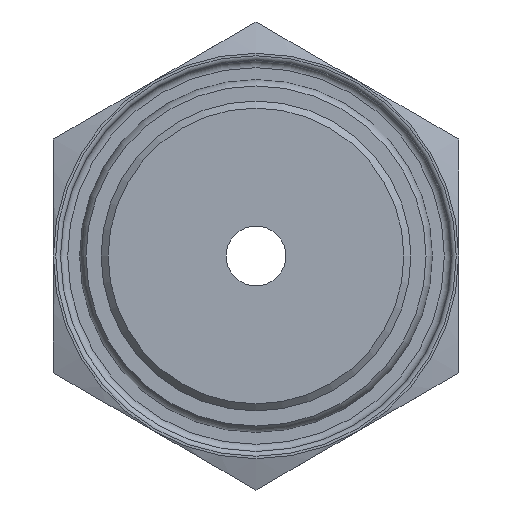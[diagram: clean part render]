
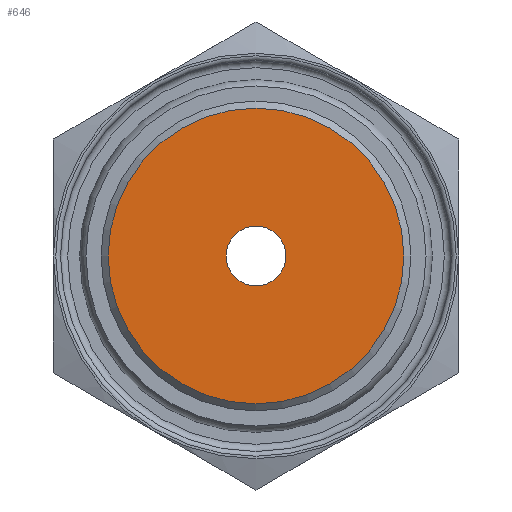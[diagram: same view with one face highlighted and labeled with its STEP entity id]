
A CAD part, front view. The second image highlights one B-rep face of the part: STEP entity #646.
In plain terms, the highlighted planar face has unit normal (0, -1, 0).
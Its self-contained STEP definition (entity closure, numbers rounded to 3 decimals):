
#72=FACE_BOUND('',#166,.T.);
#83=PLANE('',#794);
#116=FACE_OUTER_BOUND('',#165,.T.);
#165=EDGE_LOOP('',(#501));
#166=EDGE_LOOP('',(#502));
#241=CIRCLE('',#753,1.25);
#266=CIRCLE('',#789,6.2);
#292=VERTEX_POINT('',#1083);
#313=VERTEX_POINT('',#1144);
#350=EDGE_CURVE('',#292,#292,#241,.T.);
#378=EDGE_CURVE('',#313,#313,#266,.T.);
#501=ORIENTED_EDGE('',*,*,#378,.F.);
#502=ORIENTED_EDGE('',*,*,#350,.T.);
#646=ADVANCED_FACE('',(#116,#72),#83,.T.);
#753=AXIS2_PLACEMENT_3D('',#1085,#862,#863);
#789=AXIS2_PLACEMENT_3D('',#1145,#937,#938);
#794=AXIS2_PLACEMENT_3D('',#1155,#949,#950);
#862=DIRECTION('center_axis',(0.,1.,0.));
#863=DIRECTION('ref_axis',(1.,0.,0.));
#937=DIRECTION('center_axis',(0.,1.,0.));
#938=DIRECTION('ref_axis',(-1.,0.,0.));
#949=DIRECTION('center_axis',(0.,-1.,0.));
#950=DIRECTION('ref_axis',(0.,0.,-1.));
#1083=CARTESIAN_POINT('',(-1.25,-7.,0.));
#1085=CARTESIAN_POINT('Origin',(0.,-7.,0.));
#1144=CARTESIAN_POINT('',(6.2,-7.,0.));
#1145=CARTESIAN_POINT('Origin',(0.,-7.,0.));
#1155=CARTESIAN_POINT('Origin',(0.,-7.,0.));
